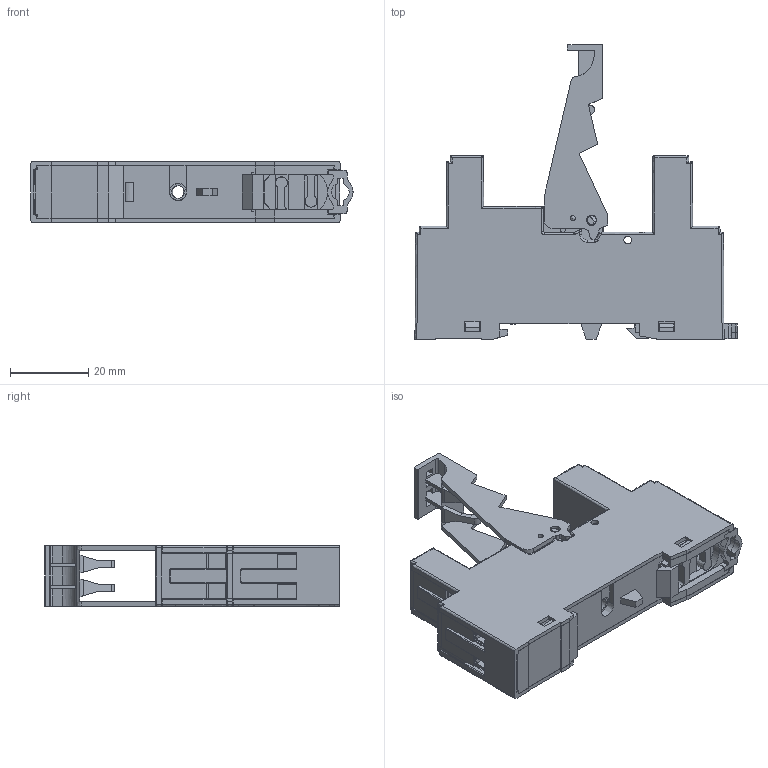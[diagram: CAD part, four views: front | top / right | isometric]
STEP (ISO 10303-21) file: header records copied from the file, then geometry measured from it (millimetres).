
FILE_DESCRIPTION(('STEP AP214'),'2;1');
FILE_NAME('95853_with_095913 - 30 marzo.stp','2021-03-30T16:55:23',(''),(''),'2007.1.106','THINKDESIGN','');
FILE_SCHEMA(('AUTOMOTIVE_DESIGN'));
Length unit declared in the file: millimetre
Products named in the file (1): top
Bounding box: 82.09 x 75.11 x 15.5 mm (x, y, z)
Volume: 31993.4 mm3; surface area: 35504.7 mm2
Topology: 4 solids, 4 shells, 1362 faces, 4407 edges, 3213 vertices
Faces by surface type: bspline 1362
Entity records: 48964 total; most frequent: CARTESIAN_POINT 25822, ORIENTED_EDGE 6536, QUASI_UNIFORM_CURVE 3344, EDGE_CURVE 3268, VERTEX_POINT 2116, EDGE_LOOP 1246, FACE_OUTER_BOUND 1154, ADVANCED_FACE 1154
